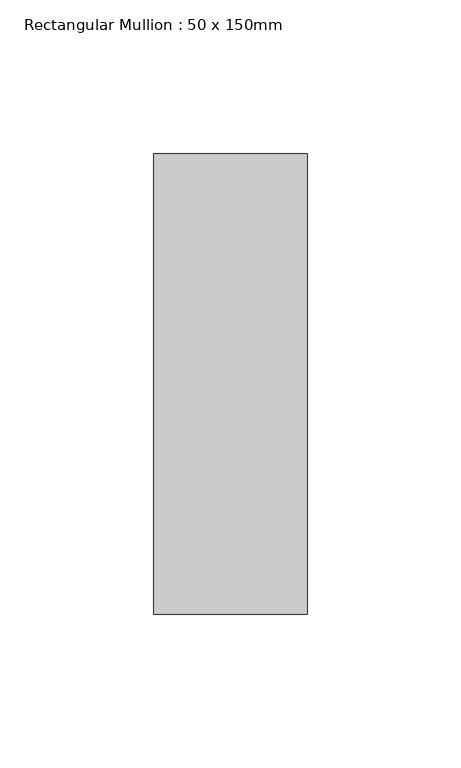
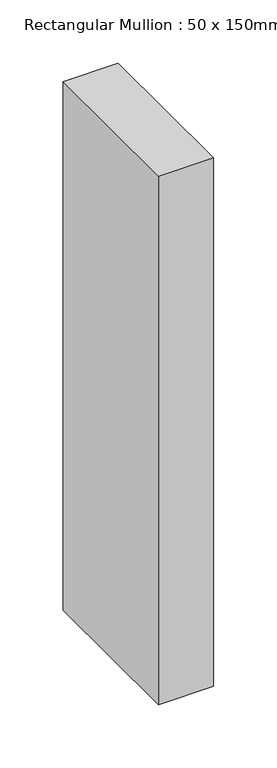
"""IFC4 building model written with IfcOpenShell, lengths in millimetres: member geometry, Rectangular Mullion : 50 x 150mm."""

from ifc_helpers import new_model, si_unit, frame, origin, place, context, project, spatial, polyline, outline, extrude, source, transform, mapped, element, save


def rectangular_mullion_50_x_150mm_7e1a8c17(model_context):
    return source(origin(), model_context, "Body", "SweptSolid", [
        extrude(outline(polyline([(25.0, 75.0), (25.0, -75.0), (-25.0, -75.0), (-25.0, 75.0), (25.0, 75.0)])), frame((0.0, 0.0, -508.3333331), z_axis=(0.0, 0.0, 1.0), x_axis=(1.0, 0.0, 0.0)), (0.0, 0.0, 1.0), 508.3333331),
    ])


if __name__ == "__main__":
    model = new_model("IFC4")
    model_context = context("Model", 3, world=origin())
    ifc_project = project(units=[si_unit("LENGTHUNIT", "METRE", prefix="MILLI")], contexts=[model_context])
    site = spatial("IfcSite", under=ifc_project)
    building = spatial("IfcBuilding", under=site)
    placement = place(None, origin())
    rectangular_mullion_50_x_150mm_shape = rectangular_mullion_50_x_150mm_7e1a8c17(model_context)
    element("IfcMember", 1, ObjectType="Rectangular Mullion : 50 x 150mm", at=placement, inside=building, context=model_context, shape_type="MappedRepresentation", body=[
        mapped(rectangular_mullion_50_x_150mm_shape, transform((0.0, 0.0, 0.0), x_axis=(1.0, 0.0, 0.0), y_axis=(0.0, 1.0, 0.0), z_axis=(0.0, 0.0, 1.0))),
    ])
    save(model, "model.ifc")
